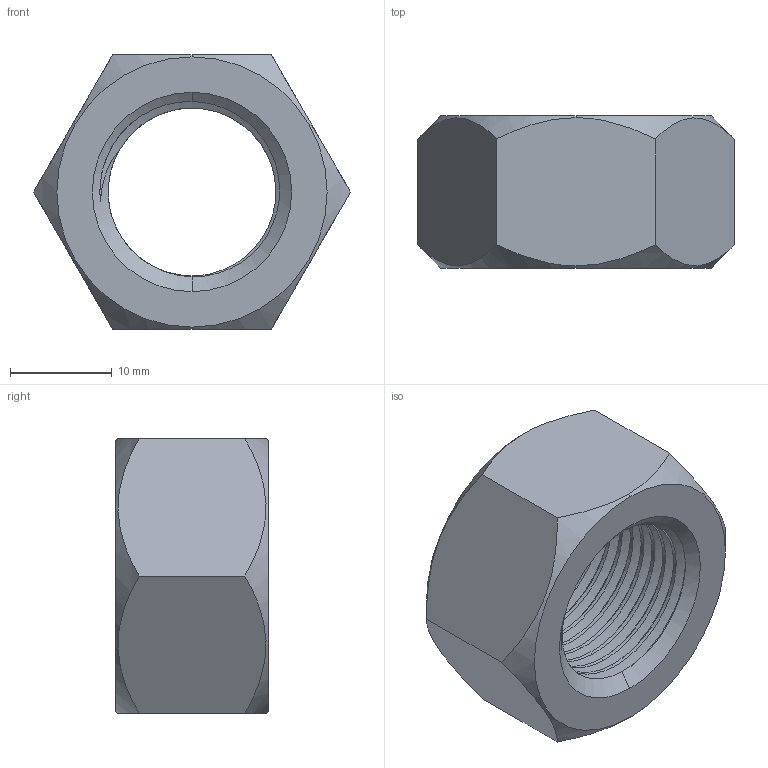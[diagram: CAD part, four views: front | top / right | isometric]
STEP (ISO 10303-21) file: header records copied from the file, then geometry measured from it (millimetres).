
FILE_DESCRIPTION (( 'STEP AP203' ), '1' );
FILE_NAME ('TANRM-304-M18x1.5.STEP', '2026-08-21T15:01:36', ( '' ), ( '' ), 'SwSTEP 2.0', 'SolidWorks 2020', '' );
FILE_SCHEMA (( 'CONFIG_CONTROL_DESIGN' ));
Length unit declared in the file: millimetre
Products named in the file (1): TANRM-304-M18x1.5
Bounding box: 31.18 x 15 x 27 mm (x, y, z)
Volume: 5812 mm3; surface area: 3288.3 mm2
Topology: 1 solids, 1 shells, 38 faces, 107 edges, 71 vertices
Faces by surface type: cylinder 18, cone 9, plane 8, bspline 3
Entity records: 3167 total; most frequent: CARTESIAN_POINT 2266, ORIENTED_EDGE 214, DIRECTION 126, EDGE_CURVE 107, VERTEX_POINT 71, AXIS2_PLACEMENT_3D 47, EDGE_LOOP 40, ADVANCED_FACE 38
